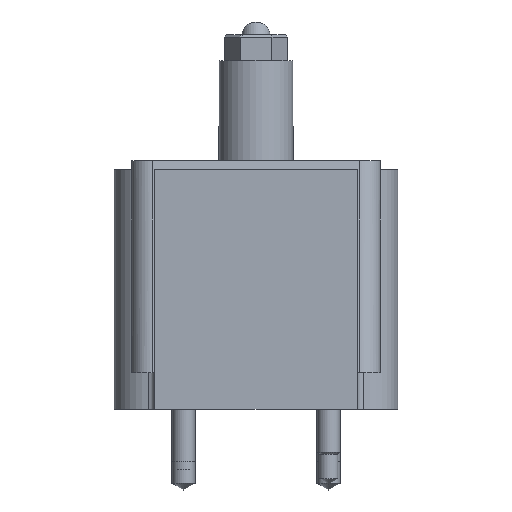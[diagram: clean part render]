
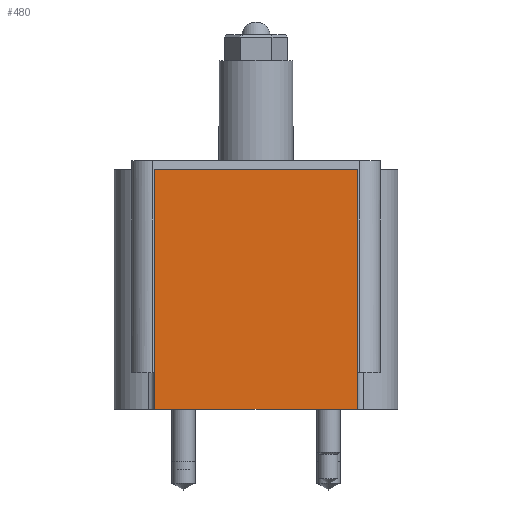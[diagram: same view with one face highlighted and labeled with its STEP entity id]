
A CAD part, left-side view. The second image highlights one B-rep face of the part: STEP entity #480.
In plain terms, the highlighted planar face has unit normal (-1, 0, 0).
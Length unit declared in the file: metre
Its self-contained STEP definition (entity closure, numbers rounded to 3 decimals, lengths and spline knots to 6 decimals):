
#480=ADVANCED_FACE('',(#1118),#1119,.T.);
#1118=FACE_OUTER_BOUND('',#2132,.T.);
#1119=PLANE('',#2133);
#2132=EDGE_LOOP('',(#11707,#11708,#11709,#11710));
#2133=AXIS2_PLACEMENT_3D('',#11711,#11712,#11713);
#11707=ORIENTED_EDGE('',*,*,#13547,.F.);
#11708=ORIENTED_EDGE('',*,*,#13511,.T.);
#11709=ORIENTED_EDGE('',*,*,#13524,.F.);
#11710=ORIENTED_EDGE('',*,*,#13533,.T.);
#11711=CARTESIAN_POINT('',(-0.084201,0.0,0.0));
#11712=DIRECTION('',(-1.0,0.0,0.0));
#11713=DIRECTION('',(0.0,0.0,1.0));
#13511=EDGE_CURVE('',#14258,#14256,#14259,.T.);
#13524=EDGE_CURVE('',#14278,#14256,#14280,.F.);
#13533=EDGE_CURVE('',#14278,#14294,#14296,.T.);
#13547=EDGE_CURVE('',#14258,#14294,#14310,.F.);
#14256=VERTEX_POINT('',#15323);
#14258=VERTEX_POINT('',#15326);
#14259=LINE('',#15327,#15328);
#14278=VERTEX_POINT('',#15349);
#14280=LINE('',#15352,#15353);
#14294=VERTEX_POINT('',#15370);
#14296=LINE('',#15373,#15374);
#14310=LINE('',#15394,#15395);
#15323=CARTESIAN_POINT('',(-0.084201,-0.034988,0.0));
#15326=CARTESIAN_POINT('',(-0.084201,0.034988,0.0));
#15327=CARTESIAN_POINT('',(-0.084201,0.0,0.0));
#15328=VECTOR('',#18879,1.0);
#15349=CARTESIAN_POINT('',(-0.084201,-0.034988,0.08255));
#15352=CARTESIAN_POINT('',(-0.084201,-0.034988,0.0));
#15353=VECTOR('',#18901,1.0);
#15370=CARTESIAN_POINT('',(-0.084201,0.034988,0.08255));
#15373=CARTESIAN_POINT('',(-0.084201,0.0,0.08255));
#15374=VECTOR('',#18915,1.0);
#15394=CARTESIAN_POINT('',(-0.084201,0.034988,0.0));
#15395=VECTOR('',#18925,1.0);
#18879=DIRECTION('',(-0.0,-1.0,-0.0));
#18901=DIRECTION('',(0.0,0.0,1.0));
#18915=DIRECTION('',(0.0,1.0,0.0));
#18925=DIRECTION('',(0.0,0.0,-1.0));
